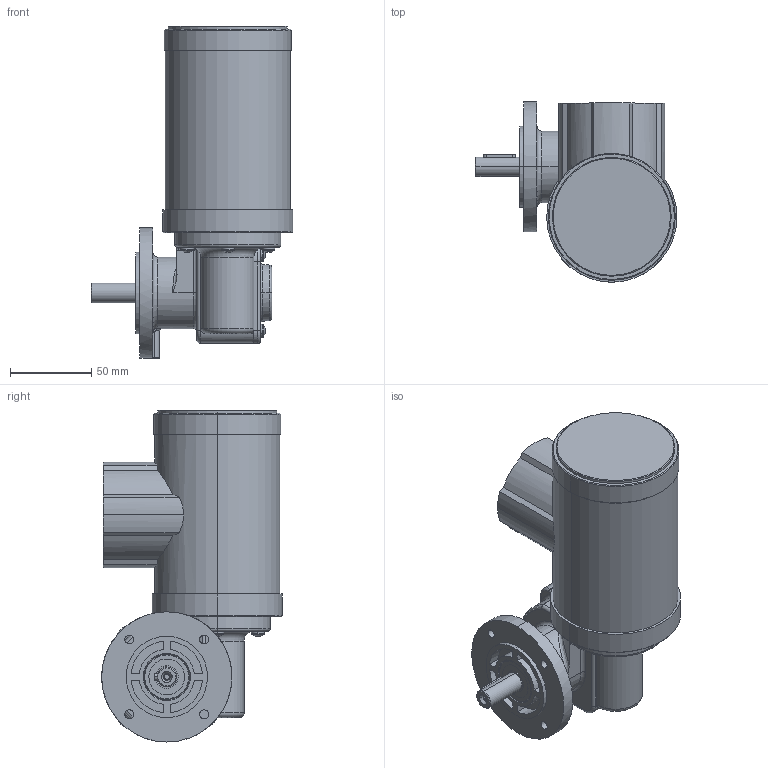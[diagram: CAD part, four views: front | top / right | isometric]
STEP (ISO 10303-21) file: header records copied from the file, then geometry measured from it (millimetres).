
FILE_DESCRIPTION (( 'STEP AP214' ), '1' );
FILE_NAME ('SN5FR_90W_3000Upm_A.STEP', '2021-03-04T09:34:58', ( '' ), ( '' ), 'SwSTEP 2.0', 'SolidWorks 2019', '' );
FILE_SCHEMA (( 'AUTOMOTIVE_DESIGN' ));
Length unit declared in the file: millimetre
Products named in the file (1): SN5FR_90W_3000Upm_A
Bounding box: 124 x 111 x 204 mm (x, y, z)
Surface area: 88425.9 mm2 (no closed solid volume)
Topology: 0 solids, 14 shells, 355 faces, 993 edges, 657 vertices
Faces by surface type: plane 135, cylinder 104, torus 44, cone 43, sphere 16, bspline 13
Entity records: 16818 total; most frequent: CARTESIAN_POINT 3697, DIRECTION 2066, ORIENTED_EDGE 1771, EDGE_CURVE 992, AXIS2_PLACEMENT_3D 859, VERTEX_POINT 657, CIRCLE 516, EDGE_LOOP 401
